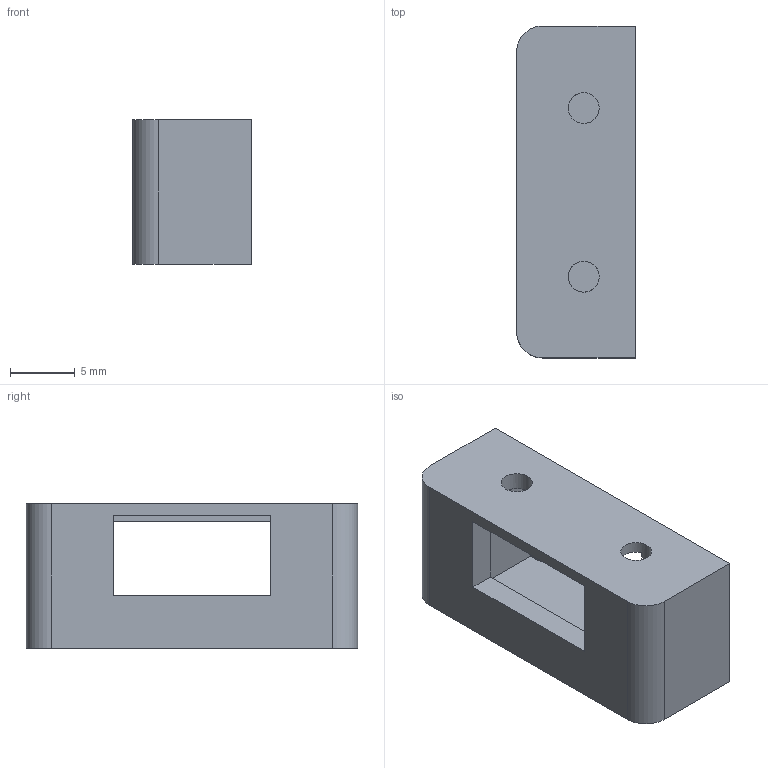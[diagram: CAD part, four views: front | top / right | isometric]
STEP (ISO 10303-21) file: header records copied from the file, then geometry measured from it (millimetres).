
FILE_DESCRIPTION(('Open CASCADE Model'),'2;1');
FILE_NAME('Open CASCADE Shape Model','2026-10-25T05:27:17',('Author'),( 'Open CASCADE'),'Open CASCADE STEP processor 7.8','Open CASCADE 7.8' ,'Unknown');
FILE_SCHEMA(('AUTOMOTIVE_DESIGN { 1 0 10303 214 1 1 1 1 }'));
Length unit declared in the file: millimetre
Products named in the file (1): Open CASCADE STEP translator 7.8 3
Bounding box: 9.2 x 25.7 x 11.2 mm (x, y, z)
Volume: 1381 mm3; surface area: 1583 mm2
Topology: 1 solids, 1 shells, 48 faces, 138 edges, 92 vertices
Faces by surface type: plane 42, cylinder 6
Full cylindrical faces by diameter (mm): 2.4 x2
Entity records: 3362 total; most frequent: CARTESIAN_POINT 675, DIRECTION 468, LINE 334, VECTOR 334, ORIENTED_EDGE 276, PCURVE 276, DEFINITIONAL_REPRESENTATION 276, EDGE_CURVE 138
